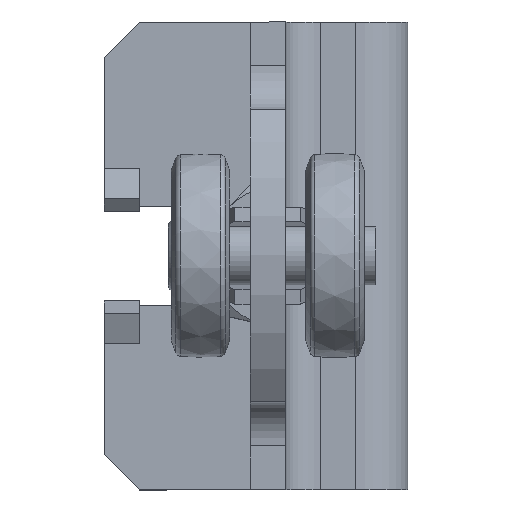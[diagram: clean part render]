
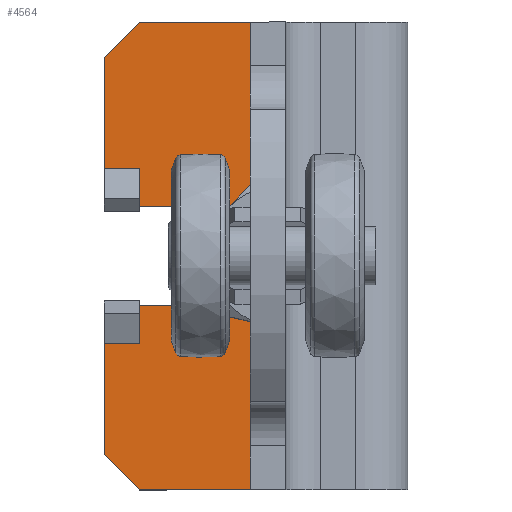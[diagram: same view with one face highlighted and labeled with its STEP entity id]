
A CAD part, top view. The second image highlights one B-rep face of the part: STEP entity #4564.
In plain terms, the highlighted planar face has unit normal (0, 0, 1).
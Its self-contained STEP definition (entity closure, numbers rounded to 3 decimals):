
#298=FACE_OUTER_BOUND('',#576,.T.);
#576=EDGE_LOOP('',(#3071,#3072,#3073,#3074,#3075,#3076,#3077,#3078,#3079,
#3080,#3081,#3082,#3083,#3084,#3085,#3086,#3087,#3088));
#897=LINE('',#6854,#1293);
#899=LINE('',#6858,#1295);
#900=LINE('',#6860,#1296);
#901=LINE('',#6862,#1297);
#902=LINE('',#6864,#1298);
#903=LINE('',#6866,#1299);
#904=LINE('',#6868,#1300);
#905=LINE('',#6870,#1301);
#906=LINE('',#6872,#1302);
#907=LINE('',#6874,#1303);
#908=LINE('',#6876,#1304);
#909=LINE('',#6878,#1305);
#910=LINE('',#6880,#1306);
#911=LINE('',#6884,#1307);
#912=LINE('',#6886,#1308);
#913=LINE('',#6888,#1309);
#914=LINE('',#6889,#1310);
#1293=VECTOR('',#5399,6.);
#1295=VECTOR('',#5403,19.01);
#1296=VECTOR('',#5404,8.485);
#1297=VECTOR('',#5405,37.);
#1298=VECTOR('',#5406,80.);
#1299=VECTOR('',#5407,37.);
#1300=VECTOR('',#5408,8.485);
#1301=VECTOR('',#5409,19.01);
#1302=VECTOR('',#5410,6.);
#1303=VECTOR('',#5411,0.01);
#1304=VECTOR('',#5412,0.01);
#1305=VECTOR('',#5413,6.5);
#1306=VECTOR('',#5414,23.99);
#1307=VECTOR('',#5417,23.99);
#1308=VECTOR('',#5418,6.5);
#1309=VECTOR('',#5419,0.01);
#1310=VECTOR('',#5420,0.01);
#1687=CIRCLE('',#4855,8.5);
#1929=VERTEX_POINT('',#6838);
#1932=VERTEX_POINT('',#6845);
#1934=VERTEX_POINT('',#6857);
#1935=VERTEX_POINT('',#6859);
#1936=VERTEX_POINT('',#6861);
#1937=VERTEX_POINT('',#6863);
#1938=VERTEX_POINT('',#6865);
#1939=VERTEX_POINT('',#6867);
#1940=VERTEX_POINT('',#6869);
#1941=VERTEX_POINT('',#6871);
#1942=VERTEX_POINT('',#6873);
#1943=VERTEX_POINT('',#6875);
#1944=VERTEX_POINT('',#6877);
#1945=VERTEX_POINT('',#6879);
#1946=VERTEX_POINT('',#6881);
#1947=VERTEX_POINT('',#6883);
#1948=VERTEX_POINT('',#6885);
#1949=VERTEX_POINT('',#6887);
#2385=EDGE_CURVE('',#1929,#1932,#897,.T.);
#2387=EDGE_CURVE('',#1934,#1932,#899,.T.);
#2388=EDGE_CURVE('',#1935,#1934,#900,.T.);
#2389=EDGE_CURVE('',#1936,#1935,#901,.T.);
#2390=EDGE_CURVE('',#1936,#1937,#902,.T.);
#2391=EDGE_CURVE('',#1938,#1937,#903,.T.);
#2392=EDGE_CURVE('',#1939,#1938,#904,.T.);
#2393=EDGE_CURVE('',#1940,#1939,#905,.T.);
#2394=EDGE_CURVE('',#1940,#1941,#906,.T.);
#2395=EDGE_CURVE('',#1941,#1942,#907,.T.);
#2396=EDGE_CURVE('',#1942,#1943,#908,.T.);
#2397=EDGE_CURVE('',#1943,#1944,#909,.T.);
#2398=EDGE_CURVE('',#1945,#1944,#910,.T.);
#2399=EDGE_CURVE('',#1946,#1945,#1687,.T.);
#2400=EDGE_CURVE('',#1947,#1946,#911,.T.);
#2401=EDGE_CURVE('',#1947,#1948,#912,.T.);
#2402=EDGE_CURVE('',#1948,#1949,#913,.T.);
#2403=EDGE_CURVE('',#1949,#1929,#914,.T.);
#3071=ORIENTED_EDGE('',*,*,#2385,.T.);
#3072=ORIENTED_EDGE('',*,*,#2387,.F.);
#3073=ORIENTED_EDGE('',*,*,#2388,.F.);
#3074=ORIENTED_EDGE('',*,*,#2389,.F.);
#3075=ORIENTED_EDGE('',*,*,#2390,.T.);
#3076=ORIENTED_EDGE('',*,*,#2391,.F.);
#3077=ORIENTED_EDGE('',*,*,#2392,.F.);
#3078=ORIENTED_EDGE('',*,*,#2393,.F.);
#3079=ORIENTED_EDGE('',*,*,#2394,.T.);
#3080=ORIENTED_EDGE('',*,*,#2395,.T.);
#3081=ORIENTED_EDGE('',*,*,#2396,.T.);
#3082=ORIENTED_EDGE('',*,*,#2397,.T.);
#3083=ORIENTED_EDGE('',*,*,#2398,.F.);
#3084=ORIENTED_EDGE('',*,*,#2399,.F.);
#3085=ORIENTED_EDGE('',*,*,#2400,.F.);
#3086=ORIENTED_EDGE('',*,*,#2401,.T.);
#3087=ORIENTED_EDGE('',*,*,#2402,.T.);
#3088=ORIENTED_EDGE('',*,*,#2403,.T.);
#4417=PLANE('',#4854);
#4564=ADVANCED_FACE('',(#298),#4417,.T.);
#4854=AXIS2_PLACEMENT_3D('',#6856,#5401,#5402);
#4855=AXIS2_PLACEMENT_3D('',#6882,#5415,#5416);
#5399=DIRECTION('',(-1.,0.,0.));
#5401=DIRECTION('center_axis',(0.,0.,1.));
#5402=DIRECTION('ref_axis',(1.,0.,0.));
#5403=DIRECTION('',(0.,1.,0.));
#5404=DIRECTION('',(-0.707,0.707,0.));
#5405=DIRECTION('',(-1.,0.,0.));
#5406=DIRECTION('',(0.,1.,0.));
#5407=DIRECTION('',(1.,0.,0.));
#5408=DIRECTION('',(0.707,0.707,0.));
#5409=DIRECTION('',(0.,1.,0.));
#5410=DIRECTION('',(1.,0.,0.));
#5411=DIRECTION('',(0.,1.,0.));
#5412=DIRECTION('',(1.,0.,0.));
#5413=DIRECTION('',(0.,-1.,0.));
#5414=DIRECTION('',(-1.,0.,0.));
#5415=DIRECTION('center_axis',(0.,0.,1.));
#5416=DIRECTION('ref_axis',(0.,-1.,0.));
#5417=DIRECTION('',(1.,0.,0.));
#5418=DIRECTION('',(0.,-1.,0.));
#5419=DIRECTION('',(-1.,0.,0.));
#5420=DIRECTION('',(0.,1.,0.));
#6838=CARTESIAN_POINT('',(-24.,-14.99,0.));
#6845=CARTESIAN_POINT('',(-30.,-14.99,0.));
#6854=CARTESIAN_POINT('',(-2.54,-14.99,0.));
#6856=CARTESIAN_POINT('Origin',(24.919,0.,0.));
#6857=CARTESIAN_POINT('',(-30.,-34.,0.));
#6858=CARTESIAN_POINT('',(-30.,-34.,0.));
#6859=CARTESIAN_POINT('',(-24.,-40.,0.));
#6860=CARTESIAN_POINT('',(-24.,-40.,0.));
#6861=CARTESIAN_POINT('',(13.,-40.,0.));
#6862=CARTESIAN_POINT('',(64.,-40.,0.));
#6863=CARTESIAN_POINT('',(13.,40.,0.));
#6864=CARTESIAN_POINT('',(13.,20.,0.));
#6865=CARTESIAN_POINT('',(-24.,40.,0.));
#6866=CARTESIAN_POINT('',(-24.,40.,0.));
#6867=CARTESIAN_POINT('',(-30.,34.,0.));
#6868=CARTESIAN_POINT('',(-30.,34.,0.));
#6869=CARTESIAN_POINT('',(-30.,14.99,0.));
#6870=CARTESIAN_POINT('',(-30.,8.5,0.));
#6871=CARTESIAN_POINT('',(-24.,14.99,0.));
#6872=CARTESIAN_POINT('',(0.46,14.99,0.));
#6873=CARTESIAN_POINT('',(-24.,15.,0.));
#6874=CARTESIAN_POINT('',(-24.,7.5,0.));
#6875=CARTESIAN_POINT('',(-23.99,15.,0.));
#6876=CARTESIAN_POINT('',(0.465,15.,0.));
#6877=CARTESIAN_POINT('',(-23.99,8.5,0.));
#6878=CARTESIAN_POINT('',(-23.99,4.25,0.));
#6879=CARTESIAN_POINT('',(0.,8.5,0.));
#6880=CARTESIAN_POINT('',(0.,8.5,0.));
#6881=CARTESIAN_POINT('',(0.,-8.5,0.));
#6882=CARTESIAN_POINT('Origin',(0.,0.,0.));
#6883=CARTESIAN_POINT('',(-23.99,-8.5,0.));
#6884=CARTESIAN_POINT('',(-30.,-8.5,0.));
#6885=CARTESIAN_POINT('',(-23.99,-15.,0.));
#6886=CARTESIAN_POINT('',(-23.99,-7.5,0.));
#6887=CARTESIAN_POINT('',(-24.,-15.,0.));
#6888=CARTESIAN_POINT('',(0.46,-15.,0.));
#6889=CARTESIAN_POINT('',(-24.,-4.25,0.));
